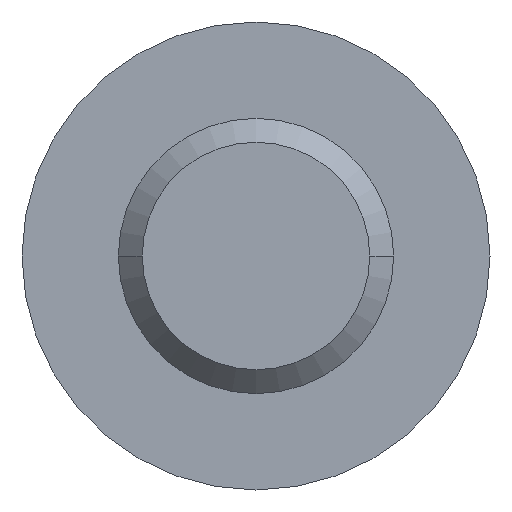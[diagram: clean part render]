
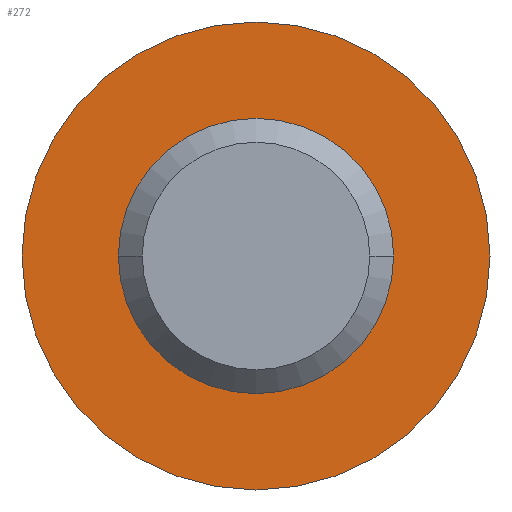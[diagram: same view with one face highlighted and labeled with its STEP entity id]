
A CAD part, left-side view. The second image highlights one B-rep face of the part: STEP entity #272.
In plain terms, the highlighted planar face has unit normal (-1, 0, 0).
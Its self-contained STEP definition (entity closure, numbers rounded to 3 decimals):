
#55=CARTESIAN_POINT('',(-5.,0.,0.));
#56=DIRECTION('',(1.,0.,0.));
#57=DIRECTION('',(0.,1.,0.));
#58=AXIS2_PLACEMENT_3D('',#55,#56,#57);
#60=CARTESIAN_POINT('',(-5.,0.,0.));
#61=DIRECTION('',(-1.,0.,0.));
#62=DIRECTION('',(0.,1.,0.));
#63=AXIS2_PLACEMENT_3D('',#60,#61,#62);
#65=CARTESIAN_POINT('',(-5.,0.,0.));
#66=DIRECTION('',(-1.,0.,0.));
#67=DIRECTION('',(0.,1.,0.));
#68=AXIS2_PLACEMENT_3D('',#65,#66,#67);
#74=CARTESIAN_POINT('',(-5.,0.,0.));
#75=DIRECTION('',(1.,0.,0.));
#76=DIRECTION('',(0.,1.,0.));
#77=AXIS2_PLACEMENT_3D('',#74,#75,#76);
#160=CARTESIAN_POINT('',(-5.,4.25,0.));
#162=VERTEX_POINT('',#160);
#164=CARTESIAN_POINT('',(-5.,-4.25,0.));
#166=VERTEX_POINT('',#164);
#167=CARTESIAN_POINT('',(-5.,2.5,0.));
#169=VERTEX_POINT('',#167);
#173=CARTESIAN_POINT('',(-5.,-2.5,0.));
#175=VERTEX_POINT('',#173);
#257=CARTESIAN_POINT('',(-5.,0.,0.));
#258=DIRECTION('',(-1.,0.,0.));
#259=DIRECTION('',(0.,1.,0.));
#260=AXIS2_PLACEMENT_3D('',#257,#258,#259);
#261=PLANE('',#260);
#262=ORIENTED_EDGE('',*,*,#239,.T.);
#263=ORIENTED_EDGE('',*,*,#250,.F.);
#264=EDGE_LOOP('',(#262,#263));
#265=FACE_OUTER_BOUND('',#264,.F.);
#267=ORIENTED_EDGE('',*,*,#266,.T.);
#269=ORIENTED_EDGE('',*,*,#268,.F.);
#270=EDGE_LOOP('',(#267,#269));
#271=FACE_BOUND('',#270,.F.);
#272=ADVANCED_FACE('',(#265,#271),#261,.T.);
#59=CIRCLE('',#58,4.25);
#64=CIRCLE('',#63,4.25);
#69=CIRCLE('',#68,2.5);
#78=CIRCLE('',#77,2.5);
#239=EDGE_CURVE('',#162,#166,#59,.T.);
#250=EDGE_CURVE('',#162,#166,#64,.T.);
#266=EDGE_CURVE('',#169,#175,#69,.T.);
#268=EDGE_CURVE('',#169,#175,#78,.T.);
